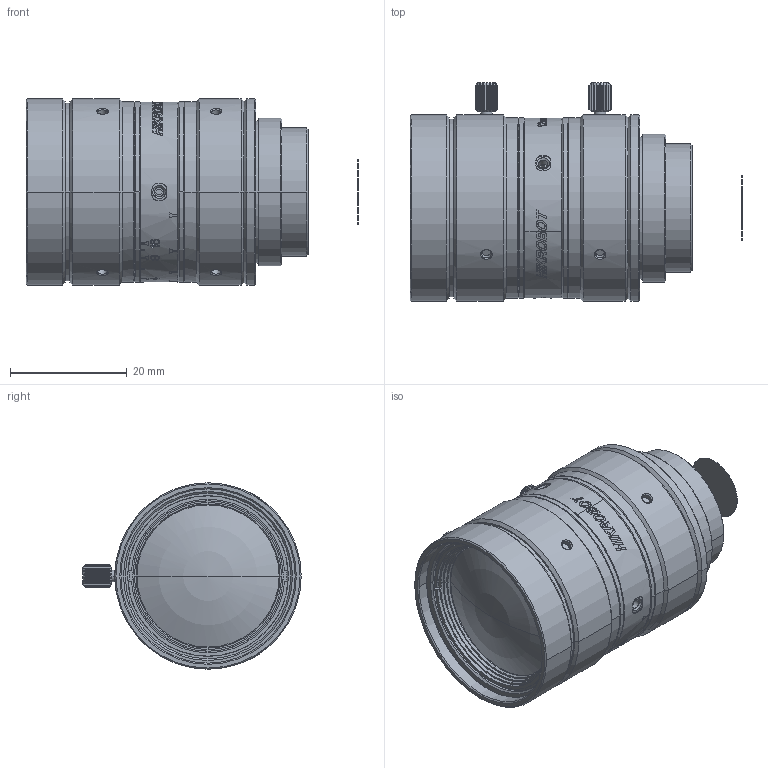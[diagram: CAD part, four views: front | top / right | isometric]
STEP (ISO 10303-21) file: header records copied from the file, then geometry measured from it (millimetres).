
FILE_DESCRIPTION((''),'2;1');
FILE_NAME('MVL-MF1228M-8MP-','2023-08-23T15:38:38',('dihaoping'),(''),'CREO PARAMETRIC BY PTC INC, 2017260','CREO PARAMETRIC BY PTC INC, 2017260','');
FILE_SCHEMA(('CONFIG_CONTROL_DESIGN'));
Length unit declared in the file: millimetre
Products named in the file (1): MVL-MF1228M-8MP-
Bounding box: 56.98 x 37.5 x 32 mm (x, y, z)
Volume: 31472.6 mm3; surface area: 8282 mm2
Topology: 2 solids, 7 shells, 1356 faces, 3818 edges, 2548 vertices
Faces by surface type: plane 524, bspline 439, cylinder 251, cone 112, torus 14, extrusion 12, sphere 4
Entity records: 57375 total; most frequent: CARTESIAN_POINT 25780, ORIENTED_EDGE 7628, DIRECTION 4903, EDGE_CURVE 3814, VERTEX_POINT 2548, AXIS2_PLACEMENT_3D 1681, VECTOR 1541, LINE 1529
